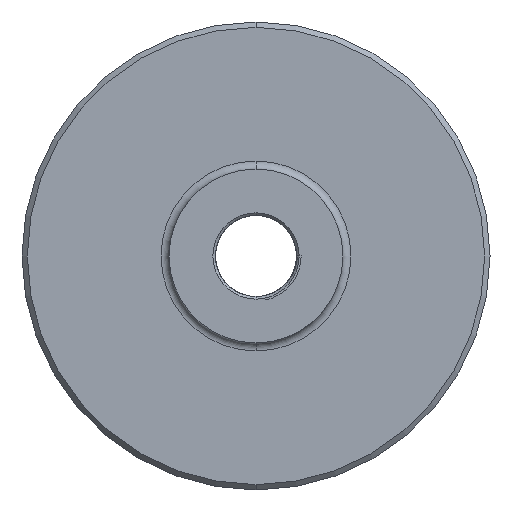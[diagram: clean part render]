
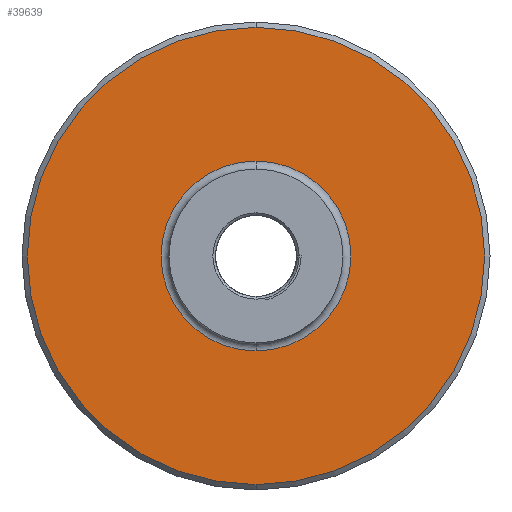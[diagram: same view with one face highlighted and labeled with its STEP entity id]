
A CAD part, front view. The second image highlights one B-rep face of the part: STEP entity #39639.
In plain terms, the highlighted planar face has unit normal (0, -1, 0).
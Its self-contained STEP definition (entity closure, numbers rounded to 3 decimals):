
#784 = CARTESIAN_POINT ( 'NONE',  ( 63.868, -179.53, 198.254 ) ) ;
#969 = AXIS2_PLACEMENT_3D ( 'NONE', #784, #26146, #19094 ) ;
#1215 = DIRECTION ( 'NONE',  ( 0., -1., 0. ) ) ;
#2043 = DIRECTION ( 'NONE',  ( 0., 0., 1. ) ) ;
#2298 = EDGE_CURVE ( 'NONE', #39511, #10313, #18909, .T. ) ;
#3939 = AXIS2_PLACEMENT_3D ( 'NONE', #27218, #39847, #2043 ) ;
#6193 = ORIENTED_EDGE ( 'NONE', *, *, #8989, .T. ) ;
#6812 = DIRECTION ( 'NONE',  ( 0., 0., 1. ) ) ;
#7467 = FACE_OUTER_BOUND ( 'NONE', #33356, .T. ) ;
#8989 = EDGE_CURVE ( 'NONE', #10313, #39511, #36973, .T. ) ;
#9979 = ORIENTED_EDGE ( 'NONE', *, *, #2298, .T. ) ;
#10313 = VERTEX_POINT ( 'NONE', #39776 ) ;
#11097 = ORIENTED_EDGE ( 'NONE', *, *, #25175, .T. ) ;
#11906 = VERTEX_POINT ( 'NONE', #29359 ) ;
#13895 = DIRECTION ( 'NONE',  ( 0., 0., 1. ) ) ;
#15179 = CIRCLE ( 'NONE', #39024, 85.5 ) ;
#17614 = DIRECTION ( 'NONE',  ( 0., 0., 1. ) ) ;
#18356 = CARTESIAN_POINT ( 'NONE',  ( 63.868, -179.53, 112.754 ) ) ;
#18527 = VERTEX_POINT ( 'NONE', #18356 ) ;
#18909 = CIRCLE ( 'NONE', #969, 35.5 ) ;
#19094 = DIRECTION ( 'NONE',  ( 0., 0., 1. ) ) ;
#22463 = CARTESIAN_POINT ( 'NONE',  ( 63.868, -179.53, 198.254 ) ) ;
#23867 = PLANE ( 'NONE',  #3939 ) ;
#25175 = EDGE_CURVE ( 'NONE', #18527, #11906, #15179, .T. ) ;
#25534 = DIRECTION ( 'NONE',  ( 0., -1., 0. ) ) ;
#26146 = DIRECTION ( 'NONE',  ( 0., 1., 0. ) ) ;
#26520 = ORIENTED_EDGE ( 'NONE', *, *, #27827, .T. ) ;
#27013 = EDGE_LOOP ( 'NONE', ( #6193, #9979 ) ) ;
#27218 = CARTESIAN_POINT ( 'NONE',  ( 63.868, -179.53, 198.254 ) ) ;
#27827 = EDGE_CURVE ( 'NONE', #11906, #18527, #33918, .T. ) ;
#29359 = CARTESIAN_POINT ( 'NONE',  ( 63.868, -179.53, 283.754 ) ) ;
#30134 = FACE_BOUND ( 'NONE', #27013, .T. ) ;
#30288 = CARTESIAN_POINT ( 'NONE',  ( 63.868, -179.53, 198.254 ) ) ;
#33356 = EDGE_LOOP ( 'NONE', ( #26520, #11097 ) ) ;
#33918 = CIRCLE ( 'NONE', #35218, 85.5 ) ;
#34849 = CARTESIAN_POINT ( 'NONE',  ( 63.868, -179.53, 198.254 ) ) ;
#35218 = AXIS2_PLACEMENT_3D ( 'NONE', #22463, #1215, #13895 ) ;
#35832 = DIRECTION ( 'NONE',  ( 0., 1., 0. ) ) ;
#36139 = CARTESIAN_POINT ( 'NONE',  ( 63.868, -179.53, 162.754 ) ) ;
#36973 = CIRCLE ( 'NONE', #40950, 35.5 ) ;
#39024 = AXIS2_PLACEMENT_3D ( 'NONE', #34849, #25534, #6812 ) ;
#39511 = VERTEX_POINT ( 'NONE', #36139 ) ;
#39639 = ADVANCED_FACE ( 'NONE', ( #7467, #30134 ), #23867, .F. ) ;
#39776 = CARTESIAN_POINT ( 'NONE',  ( 63.868, -179.53, 233.754 ) ) ;
#39847 = DIRECTION ( 'NONE',  ( 0., 1., 0. ) ) ;
#40950 = AXIS2_PLACEMENT_3D ( 'NONE', #30288, #35832, #17614 ) ;
